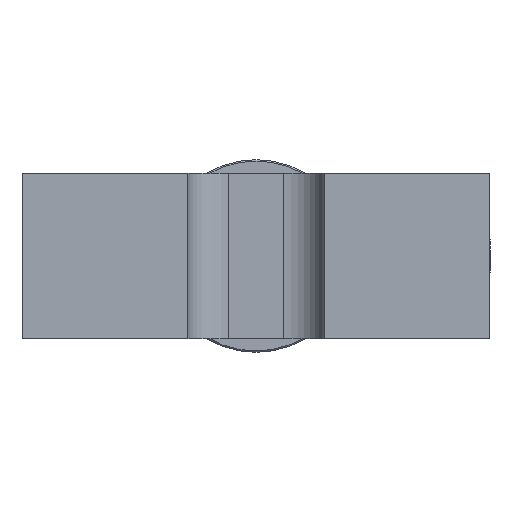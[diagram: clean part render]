
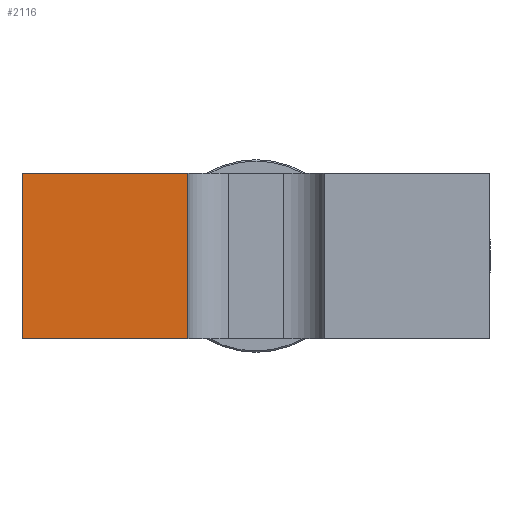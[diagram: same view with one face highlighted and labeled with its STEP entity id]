
A CAD part, left-side view. The second image highlights one B-rep face of the part: STEP entity #2116.
In plain terms, the highlighted planar face has unit normal (-1, 0, 0).
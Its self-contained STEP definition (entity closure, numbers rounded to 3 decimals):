
#129=LINE($,#3922,#219);
#134=LINE($,#3933,#224);
#136=LINE($,#3936,#226);
#137=LINE($,#3937,#227);
#219=VECTOR($,#3085,12.);
#224=VECTOR($,#3094,12.);
#226=VECTOR($,#3098,12.);
#227=VECTOR($,#3099,12.);
#312=PLANE($,#2422);
#557=FACE_OUTER_BOUND($,#795,.T.);
#795=EDGE_LOOP($,(#1863,#1864,#1865,#1866));
#1128=VERTEX_POINT($,#3915);
#1131=VERTEX_POINT($,#3920);
#1134=VERTEX_POINT($,#3930);
#1135=VERTEX_POINT($,#3932);
#1376=EDGE_CURVE($,#1131,#1128,#129,.T.);
#1381=EDGE_CURVE($,#1135,#1134,#134,.T.);
#1383=EDGE_CURVE($,#1134,#1128,#136,.T.);
#1384=EDGE_CURVE($,#1131,#1135,#137,.T.);
#1863=ORIENTED_EDGE($,*,*,#1383,.T.);
#1864=ORIENTED_EDGE($,*,*,#1376,.F.);
#1865=ORIENTED_EDGE($,*,*,#1384,.T.);
#1866=ORIENTED_EDGE($,*,*,#1381,.T.);
#2116=ADVANCED_FACE($,(#557),#312,.T.);
#2422=AXIS2_PLACEMENT_3D($,#3935,#3096,#3097);
#3085=DIRECTION($,(0.,0.,1.));
#3094=DIRECTION($,(0.,0.,1.));
#3096=DIRECTION('center_axis',(-1.,0.,0.));
#3097=DIRECTION('ref_axis',(0.,0.,1.));
#3098=DIRECTION($,(0.,1.,0.));
#3099=DIRECTION($,(0.,-1.,0.));
#3915=CARTESIAN_POINT('',(-34.,17.,12.));
#3920=CARTESIAN_POINT('',(-34.,17.,0.));
#3922=CARTESIAN_POINT($,(-34.,17.,0.));
#3930=CARTESIAN_POINT('',(-34.,5.,12.));
#3932=CARTESIAN_POINT('',(-34.,5.,0.));
#3933=CARTESIAN_POINT($,(-34.,5.,0.));
#3935=CARTESIAN_POINT('Origin',(-34.,5.,0.));
#3936=CARTESIAN_POINT($,(-34.,17.,12.));
#3937=CARTESIAN_POINT($,(-34.,17.,0.));
